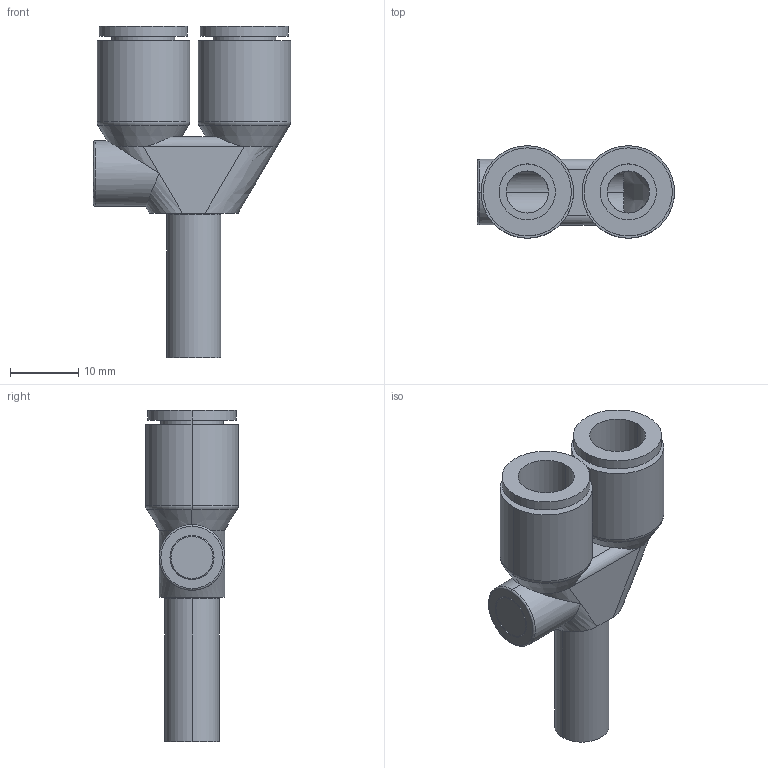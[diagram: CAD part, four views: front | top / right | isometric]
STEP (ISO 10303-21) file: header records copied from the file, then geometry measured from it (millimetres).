
FILE_DESCRIPTION (( 'STEP AP214' ), '1' );
FILE_NAME ('179.STEP', '2011-05-05T19:44:27', ( 'EMI' ), ( 'EMI' ), 'SwSTEP 2.0', 'SolidWorks 2009', '' );
FILE_SCHEMA (( 'AUTOMOTIVE_DESIGN' ));
Length unit declared in the file: millimetre
Products named in the file (1): 179
Bounding box: 28.98 x 13.6 x 48.7 mm (x, y, z)
Volume: 4738.8 mm3; surface area: 5111.1 mm2
Topology: 2 solids, 2 shells, 71 faces, 157 edges, 95 vertices
Faces by surface type: cylinder 36, plane 16, torus 8, cone 6, bspline 5
Entity records: 2463 total; most frequent: CARTESIAN_POINT 855, DIRECTION 341, ORIENTED_EDGE 314, EDGE_CURVE 157, AXIS2_PLACEMENT_3D 145, VERTEX_POINT 95, EDGE_LOOP 82, CIRCLE 78
